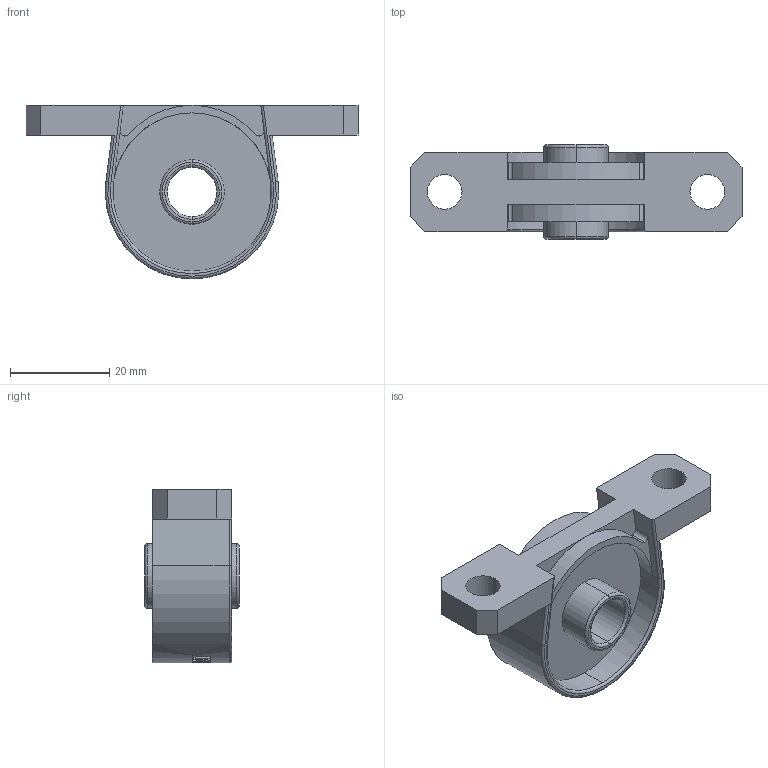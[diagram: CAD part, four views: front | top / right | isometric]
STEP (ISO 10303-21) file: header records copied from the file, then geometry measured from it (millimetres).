
FILE_DESCRIPTION (( 'STEP AP203' ), '1' );
FILE_NAME ('10mm.STEP', '2017-08-14T12:59:11', ( '' ), ( '' ), 'SwSTEP 2.0', 'SolidWorks 2014', '' );
FILE_SCHEMA (( 'CONFIG_CONTROL_DESIGN' ));
Length unit declared in the file: millimetre
Products named in the file (1): 10mm
Bounding box: 67 x 19 x 35 mm (x, y, z)
Volume: 10364.4 mm3; surface area: 7665 mm2
Topology: 1 solids, 1 shells, 151 faces, 406 edges, 266 vertices
Faces by surface type: plane 72, cylinder 37, bspline 32, torus 10
Entity records: 9964 total; most frequent: CARTESIAN_POINT 6311, ORIENTED_EDGE 812, DIRECTION 645, EDGE_CURVE 406, VERTEX_POINT 266, AXIS2_PLACEMENT_3D 238, VECTOR 169, LINE 169
